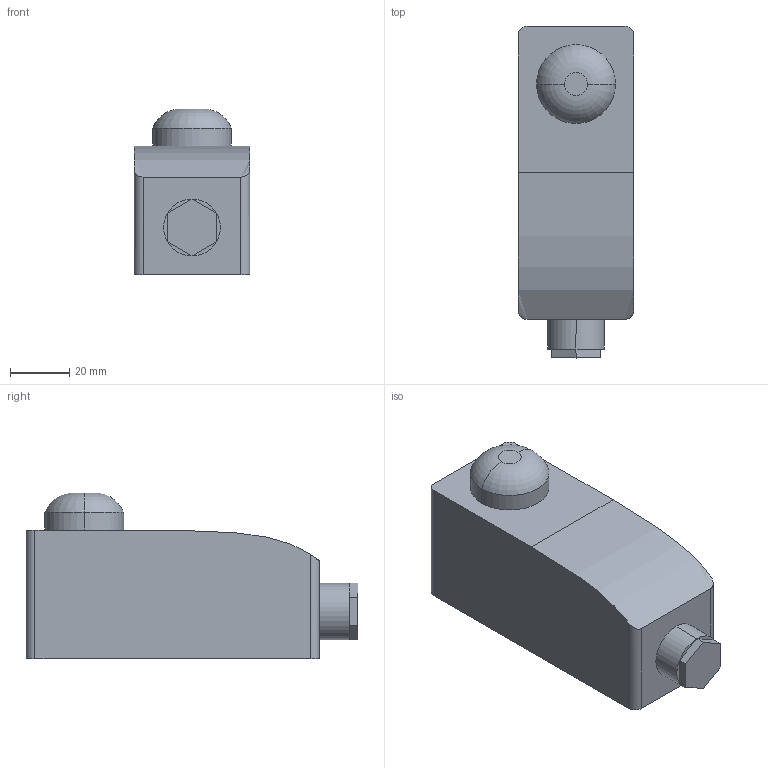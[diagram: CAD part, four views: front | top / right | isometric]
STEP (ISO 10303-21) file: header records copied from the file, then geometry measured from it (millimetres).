
FILE_DESCRIPTION (( 'STEP AP214' ), '1' );
FILE_NAME ('BRC — kopia.STEP', '2022-12-16T11:38:14', ( '' ), ( '' ), 'SwSTEP 2.0', 'SolidWorks 2022', '' );
FILE_SCHEMA (( 'AUTOMOTIVE_DESIGN' ));
Length unit declared in the file: millimetre
Products named in the file (1): BRC — kopia
Bounding box: 39 x 112 x 56 mm (x, y, z)
Volume: 172254.3 mm3; surface area: 21532.6 mm2
Topology: 2 solids, 2 shells, 33 faces, 67 edges, 40 vertices
Faces by surface type: plane 22, cylinder 8, torus 2, bspline 1
Entity records: 928 total; most frequent: CARTESIAN_POINT 184, DIRECTION 153, ORIENTED_EDGE 134, EDGE_CURVE 67, AXIS2_PLACEMENT_3D 57, VERTEX_POINT 40, VECTOR 39, LINE 39
